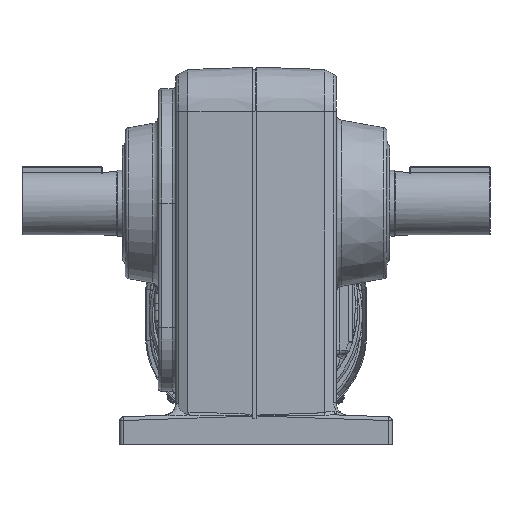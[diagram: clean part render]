
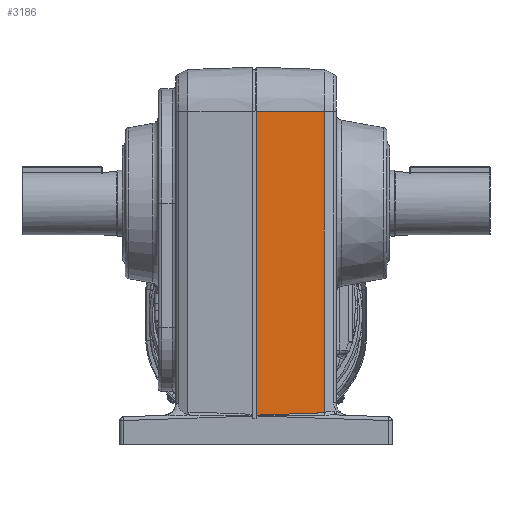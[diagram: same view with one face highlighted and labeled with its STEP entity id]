
A CAD part, left-side view. The second image highlights one B-rep face of the part: STEP entity #3186.
In plain terms, the highlighted planar face has unit normal (-0.999, -0.035, 0).
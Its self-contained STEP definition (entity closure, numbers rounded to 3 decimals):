
#3186 = ADVANCED_FACE( '', ( #7987 ), #7988, .T. );
#7987 = FACE_OUTER_BOUND( '', #17215, .T. );
#7988 = PLANE( '', #17216 );
#17215 = EDGE_LOOP( '', ( #35902, #35903, #35904, #35905, #35906 ) );
#17216 = AXIS2_PLACEMENT_3D( '', #35907, #35908, #35909 );
#35902 = ORIENTED_EDGE( '', *, *, #51153, .T. );
#35903 = ORIENTED_EDGE( '', *, *, #51154, .T. );
#35904 = ORIENTED_EDGE( '', *, *, #51155, .T. );
#35905 = ORIENTED_EDGE( '', *, *, #51156, .T. );
#35906 = ORIENTED_EDGE( '', *, *, #51157, .T. );
#35907 = CARTESIAN_POINT( '', ( -121.503, 2., -31. ) );
#35908 = DIRECTION( '', ( -0.999, -0.035, 0. ) );
#35909 = DIRECTION( '', ( 0.035, -0.999, 0. ) );
#51153 = EDGE_CURVE( '', #59883, #59884, #59885, .F. );
#51154 = EDGE_CURVE( '', #59884, #59886, #59887, .F. );
#51155 = EDGE_CURVE( '', #59886, #59888, #59889, .T. );
#51156 = EDGE_CURVE( '', #59888, #59890, #59891, .F. );
#51157 = EDGE_CURVE( '', #59890, #59883, #59892, .T. );
#59883 = VERTEX_POINT( '', #74734 );
#59884 = VERTEX_POINT( '', #74735 );
#59885 = LINE( '', #74736, #74737 );
#59886 = VERTEX_POINT( '', #74738 );
#59887 = ELLIPSE( '', #74739, 172.027, 6. );
#59888 = VERTEX_POINT( '', #74740 );
#59889 = B_SPLINE_CURVE_WITH_KNOTS( '', 3, ( #74741, #74742, #74743, #74744 ), .UNSPECIFIED., .F., .F., ( 4, 4 ), ( 0., 0. ), .UNSPECIFIED. );
#59890 = VERTEX_POINT( '', #74745 );
#59891 = LINE( '', #74746, #74747 );
#59892 = LINE( '', #74748, #74749 );
#74734 = CARTESIAN_POINT( '', ( -121.503, 2., 72. ) );
#74735 = CARTESIAN_POINT( '', ( -121.503, 2., -167.121 ) );
#74736 = CARTESIAN_POINT( '', ( -121.503, 2., -31. ) );
#74737 = VECTOR( '', #88235, 1000. );
#74738 = CARTESIAN_POINT( '', ( -119.634, -51.522, -164.782 ) );
#74739 = AXIS2_PLACEMENT_3D( '', #88236, #88237, #88238 );
#74740 = CARTESIAN_POINT( '', ( -119.635, -51.506, -164.582 ) );
#74741 = CARTESIAN_POINT( '', ( -119.634, -51.522, -164.782 ) );
#74742 = CARTESIAN_POINT( '', ( -119.635, -51.511, -164.716 ) );
#74743 = CARTESIAN_POINT( '', ( -119.635, -51.506, -164.649 ) );
#74744 = CARTESIAN_POINT( '', ( -119.635, -51.506, -164.582 ) );
#74745 = CARTESIAN_POINT( '', ( -119.635, -51.506, 72. ) );
#74746 = CARTESIAN_POINT( '', ( -119.635, -51.506, 72. ) );
#74747 = VECTOR( '', #88239, 1000. );
#74748 = CARTESIAN_POINT( '', ( -121.503, 2., 72. ) );
#74749 = VECTOR( '', #88240, 1000. );
#88235 = DIRECTION( '', ( 0., 0., 1. ) );
#88236 = CARTESIAN_POINT( '', ( -115.505, -169.765, -173.267 ) );
#88237 = DIRECTION( '', ( -0.999, -0.035, 0. ) );
#88238 = DIRECTION( '', ( 0.035, -0.999, -0.035 ) );
#88239 = DIRECTION( '', ( 0., 0., -1. ) );
#88240 = DIRECTION( '', ( -0.035, 0.999, 0. ) );
